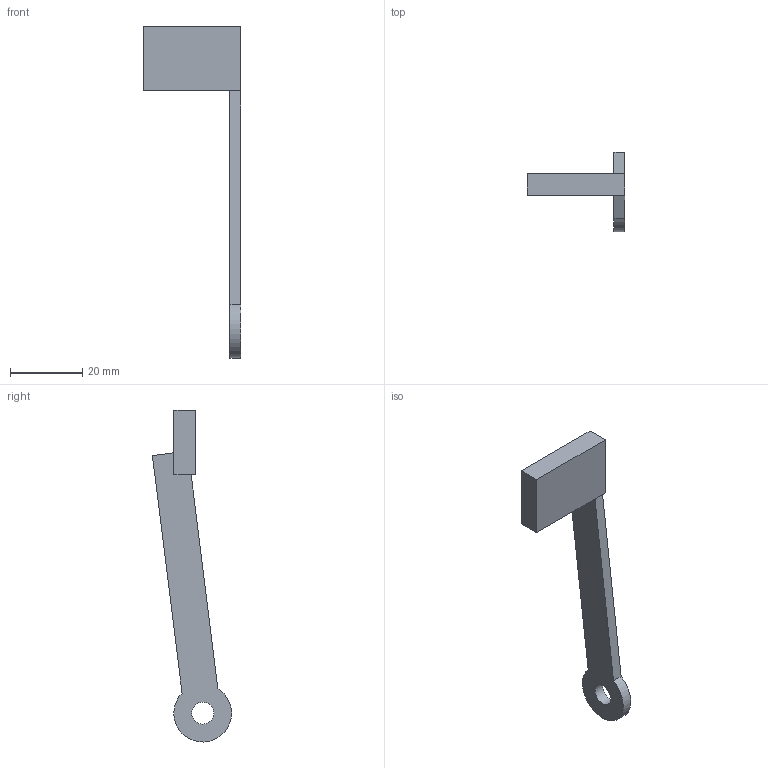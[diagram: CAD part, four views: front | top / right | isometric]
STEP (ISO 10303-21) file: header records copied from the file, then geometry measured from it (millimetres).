
FILE_DESCRIPTION(('Open CASCADE Model'),'2;1');
FILE_NAME('Open CASCADE Shape Model','2026-10-06T19:56:09',('Author'),( 'Open CASCADE'),'Open CASCADE STEP processor 7.9','Open CASCADE 7.9' ,'Unknown');
FILE_SCHEMA(('AUTOMOTIVE_DESIGN { 1 0 10303 214 1 1 1 1 }'));
Length unit declared in the file: millimetre
Products named in the file (1): Open CASCADE STEP translator 7.9 15
Bounding box: 27 x 21.96 x 91.99 mm (x, y, z)
Volume: 5301.1 mm3; surface area: 3641.1 mm2
Topology: 1 solids, 1 shells, 12 faces, 30 edges, 20 vertices
Faces by surface type: plane 10, cylinder 2
Full cylindrical faces by diameter (mm): 6.1 x1
Entity records: 762 total; most frequent: CARTESIAN_POINT 159, DIRECTION 104, LINE 70, VECTOR 70, ORIENTED_EDGE 60, PCURVE 60, DEFINITIONAL_REPRESENTATION 60, EDGE_CURVE 30
